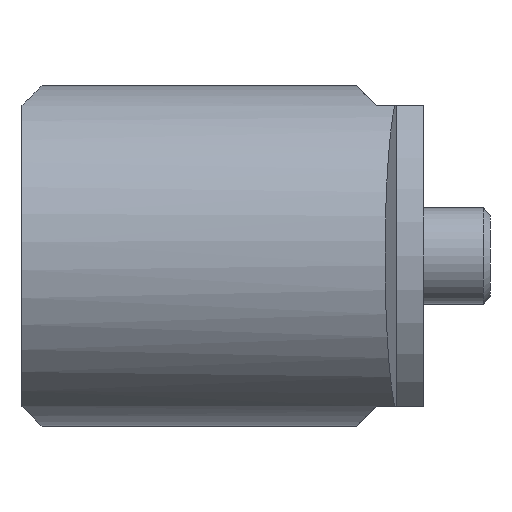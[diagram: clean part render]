
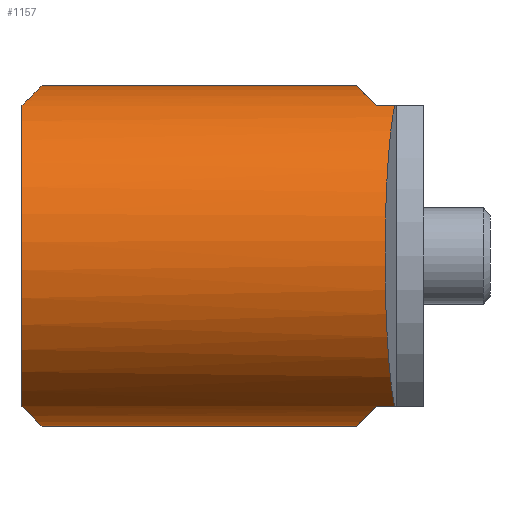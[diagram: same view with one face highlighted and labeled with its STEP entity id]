
A CAD part, left-side view. The second image highlights one B-rep face of the part: STEP entity #1157.
In plain terms, the highlighted cylindrical face has radius 12.75 mm (diameter 25.5 mm), a partial arc.
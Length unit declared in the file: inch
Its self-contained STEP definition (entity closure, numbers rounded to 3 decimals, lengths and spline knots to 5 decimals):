
#24=ELLIPSE('',#1246,0.70989,0.50197);
#25=ELLIPSE('',#1249,0.70989,0.50197);
#26=ELLIPSE('',#1252,0.70989,0.50197);
#27=ELLIPSE('',#1254,0.70989,0.50197);
#28=ELLIPSE('',#1258,0.50473,0.50197);
#98=FACE_OUTER_BOUND('',#164,.T.);
#164=EDGE_LOOP('',(#793,#794,#795,#796,#797,#798,#799,#800,#801,#802));
#239=LINE('',#1799,#310);
#252=LINE('',#1829,#323);
#261=LINE('',#1854,#332);
#262=LINE('',#1856,#333);
#310=VECTOR('',#1423,0.3937);
#323=VECTOR('',#1442,0.3937);
#332=VECTOR('',#1469,0.3937);
#333=VECTOR('',#1472,0.3937);
#385=CIRCLE('',#1260,0.50197);
#468=VERTEX_POINT('',#1789);
#469=VERTEX_POINT('',#1790);
#472=VERTEX_POINT('',#1798);
#477=VERTEX_POINT('',#1810);
#478=VERTEX_POINT('',#1811);
#485=VERTEX_POINT('',#1826);
#486=VERTEX_POINT('',#1828);
#488=VERTEX_POINT('',#1834);
#490=VERTEX_POINT('',#1840);
#491=VERTEX_POINT('',#1841);
#587=EDGE_CURVE('',#468,#469,#24,.T.);
#591=EDGE_CURVE('',#469,#472,#239,.T.);
#597=EDGE_CURVE('',#477,#478,#25,.T.);
#605=EDGE_CURVE('',#486,#485,#252,.T.);
#608=EDGE_CURVE('',#485,#488,#26,.T.);
#611=EDGE_CURVE('',#490,#491,#27,.T.);
#617=EDGE_CURVE('',#472,#486,#28,.T.);
#618=EDGE_CURVE('',#488,#490,#261,.T.);
#619=EDGE_CURVE('',#477,#491,#385,.T.);
#620=EDGE_CURVE('',#468,#478,#262,.T.);
#793=ORIENTED_EDGE('',*,*,#587,.T.);
#794=ORIENTED_EDGE('',*,*,#591,.T.);
#795=ORIENTED_EDGE('',*,*,#617,.T.);
#796=ORIENTED_EDGE('',*,*,#605,.T.);
#797=ORIENTED_EDGE('',*,*,#608,.T.);
#798=ORIENTED_EDGE('',*,*,#618,.T.);
#799=ORIENTED_EDGE('',*,*,#611,.T.);
#800=ORIENTED_EDGE('',*,*,#619,.F.);
#801=ORIENTED_EDGE('',*,*,#597,.T.);
#802=ORIENTED_EDGE('',*,*,#620,.F.);
#1059=CYLINDRICAL_SURFACE('',#1259,0.50197);
#1157=ADVANCED_FACE('',(#98),#1059,.T.);
#1246=AXIS2_PLACEMENT_3D('',#1791,#1416,#1417);
#1249=AXIS2_PLACEMENT_3D('',#1812,#1431,#1432);
#1252=AXIS2_PLACEMENT_3D('',#1835,#1447,#1448);
#1254=AXIS2_PLACEMENT_3D('',#1842,#1453,#1454);
#1258=AXIS2_PLACEMENT_3D('',#1852,#1465,#1466);
#1259=AXIS2_PLACEMENT_3D('',#1853,#1467,#1468);
#1260=AXIS2_PLACEMENT_3D('',#1855,#1470,#1471);
#1416=DIRECTION('center_axis',(0.,0.707,0.707));
#1417=DIRECTION('ref_axis',(0.,-0.707,0.707));
#1423=DIRECTION('',(0.,-1.,0.));
#1431=DIRECTION('center_axis',(0.,-0.707,0.707));
#1432=DIRECTION('ref_axis',(0.,0.707,0.707));
#1442=DIRECTION('',(0.,1.,0.));
#1447=DIRECTION('center_axis',(0.,0.707,-0.707));
#1448=DIRECTION('ref_axis',(0.,0.707,0.707));
#1453=DIRECTION('center_axis',(0.,-0.707,-0.707));
#1454=DIRECTION('ref_axis',(0.,-0.707,0.707));
#1465=DIRECTION('center_axis',(0.105,0.995,0.));
#1466=DIRECTION('ref_axis',(-0.995,0.105,0.));
#1467=DIRECTION('center_axis',(0.,-1.,0.));
#1468=DIRECTION('ref_axis',(0.,0.,1.));
#1469=DIRECTION('',(0.,1.,0.));
#1470=DIRECTION('center_axis',(0.,1.,0.));
#1471=DIRECTION('ref_axis',(0.,0.,1.));
#1472=DIRECTION('',(0.,1.,0.));
#1789=CARTESIAN_POINT('',(-0.93589,-0.50139,-0.50197));
#1790=CARTESIAN_POINT('',(-1.17211,-0.56045,-0.44291));
#1791=CARTESIAN_POINT('Origin',(-0.93589,-1.00336,0.));
#1798=CARTESIAN_POINT('',(-1.17211,-0.61392,-0.44291));
#1799=CARTESIAN_POINT('',(-1.17211,0.48286,-0.44291));
#1810=CARTESIAN_POINT('',(-1.17211,0.48286,-0.44291));
#1811=CARTESIAN_POINT('',(-0.93589,0.4238,-0.50197));
#1812=CARTESIAN_POINT('Origin',(-0.93589,0.92577,0.));
#1826=CARTESIAN_POINT('',(-1.17211,-0.56045,0.44291));
#1828=CARTESIAN_POINT('',(-1.17211,-0.61392,0.44291));
#1829=CARTESIAN_POINT('',(-1.17211,0.48286,0.44291));
#1834=CARTESIAN_POINT('',(-0.93589,-0.50139,0.50197));
#1835=CARTESIAN_POINT('Origin',(-0.93589,-1.00336,0.));
#1840=CARTESIAN_POINT('',(-0.93589,0.4238,0.50197));
#1841=CARTESIAN_POINT('',(-1.17211,0.48286,0.44291));
#1842=CARTESIAN_POINT('Origin',(-0.93589,0.92577,0.));
#1852=CARTESIAN_POINT('Origin',(-0.93589,-0.63874,0.));
#1853=CARTESIAN_POINT('Origin',(-0.93589,0.48286,0.));
#1854=CARTESIAN_POINT('',(-0.93589,0.48286,0.50197));
#1855=CARTESIAN_POINT('Origin',(-0.93589,0.48286,0.));
#1856=CARTESIAN_POINT('',(-0.93589,0.48286,-0.50197));
